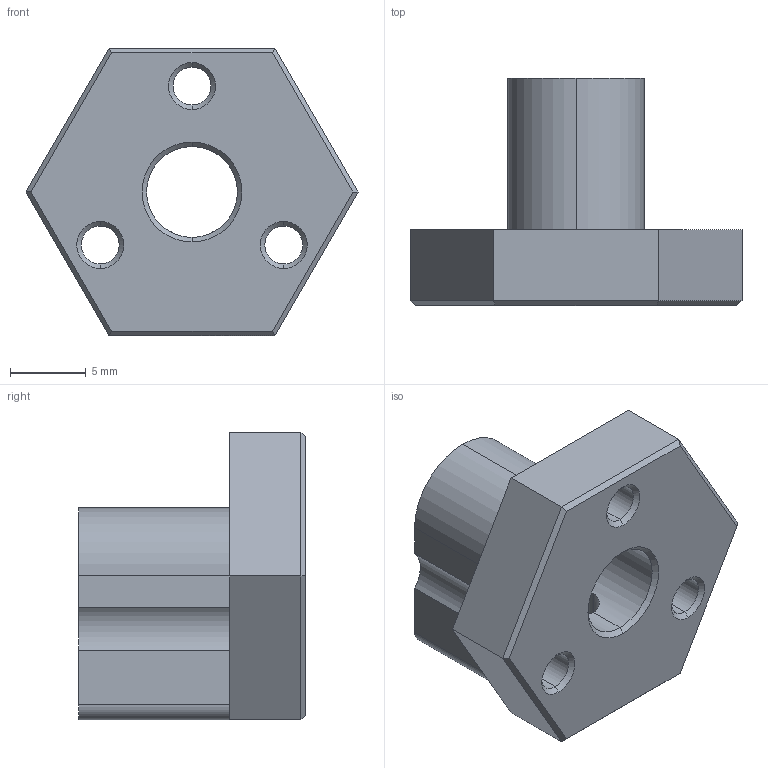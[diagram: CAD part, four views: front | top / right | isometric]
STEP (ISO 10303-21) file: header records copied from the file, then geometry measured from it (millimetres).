
FILE_DESCRIPTION (( 'STEP AP214' ), '1' );
FILE_NAME ('Mootori_adapter.STEP', '2025-05-19T12:15:35', ( '' ), ( '' ), 'SwSTEP 2.0', 'SolidWorks 2024', '' );
FILE_SCHEMA (( 'AUTOMOTIVE_DESIGN' ));
Length unit declared in the file: millimetre
Products named in the file (1): Mootori_adapter
Bounding box: 21.94 x 15 x 19 mm (x, y, z)
Volume: 2143.2 mm3; surface area: 1749.5 mm2
Topology: 1 solids, 1 shells, 47 faces, 125 edges, 78 vertices
Faces by surface type: plane 19, cylinder 18, cone 10
Entity records: 1572 total; most frequent: CARTESIAN_POINT 339, DIRECTION 255, ORIENTED_EDGE 250, EDGE_CURVE 125, AXIS2_PLACEMENT_3D 90, VERTEX_POINT 78, VECTOR 75, LINE 75
